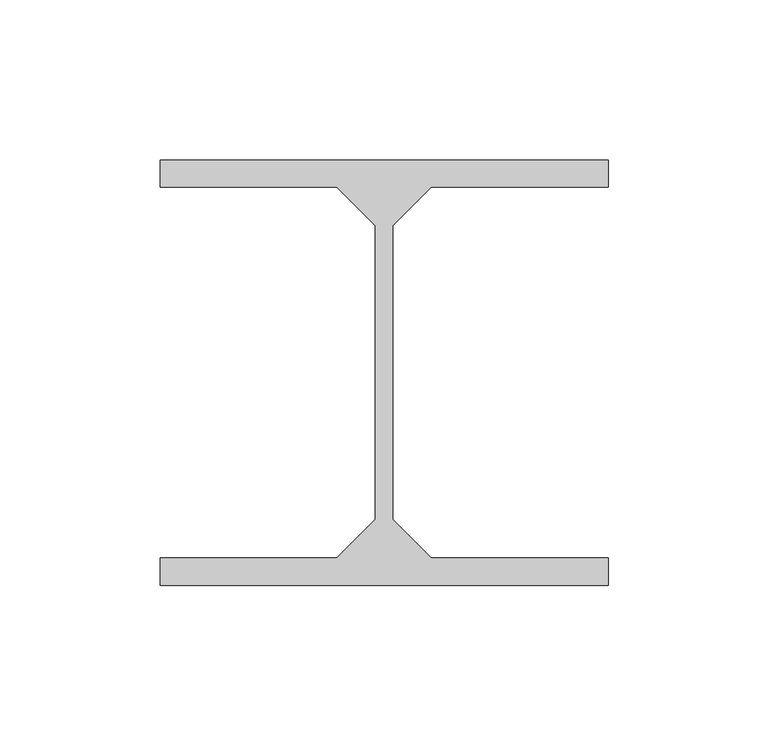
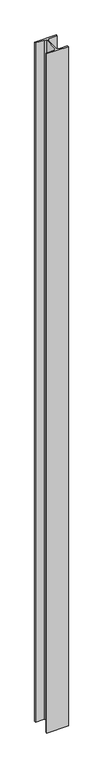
"""IFC4 building model written with IfcOpenShell, lengths in millimetres: beam geometry, Potelet 36343 : Potelet 36343."""

from ifc_helpers import new_model, si_unit, frame, origin, place, context, project, spatial, polyline, outline, extrude, source, transform, mapped, element, save


def beam_4316e584(model_context):
    return source(origin(), model_context, "Body", "SweptSolid", [
        extrude(outline(polyline([(7534.9999999, -12742.0), (7534.9999999, -12733.5), (7674.9999999, -12733.5), (7674.9999999, -12742.0), (7619.7499999, -12742.0), (7607.7499999, -12754.0), (7607.7499999, -12846.0), (7619.7499999, -12858.0), (7674.9999999, -12858.0), (7674.9999999, -12866.5), (7534.9999999, -12866.5), (7534.9999999, -12858.0), (7590.2499999, -12858.0), (7602.2499999, -12846.0), (7602.2499999, -12754.0), (7590.2499999, -12742.0), (7534.9999999, -12742.0)])), frame((0.0, 0.0, 7410.0), z_axis=(0.0, 0.0, 1.0), x_axis=(1.0, 0.0, 0.0)), (0.0, 0.0, 1.0), 4627.258392),
    ])


if __name__ == "__main__":
    model = new_model("IFC4")
    model_context = context("Model", 3, world=origin())
    ifc_project = project(units=[si_unit("LENGTHUNIT", "METRE", prefix="MILLI")], contexts=[model_context])
    site = spatial("IfcSite", under=ifc_project)
    building = spatial("IfcBuilding", under=site)
    placement = place(None, origin())
    beam_shape = beam_4316e584(model_context)
    element("IfcBeam", 1, ObjectType="Potelet 36343 : Potelet 36343", at=placement, inside=building, context=model_context, shape_type="MappedRepresentation", body=[
        mapped(beam_shape, transform((0.0, 0.0, 0.0), x_axis=(1.0, 0.0, 0.0), y_axis=(0.0, 1.0, 0.0), z_axis=(0.0, 0.0, 1.0))),
    ])
    save(model, "model.ifc")
